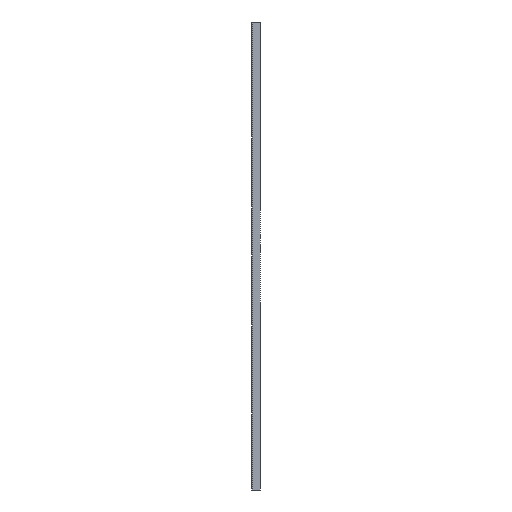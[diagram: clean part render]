
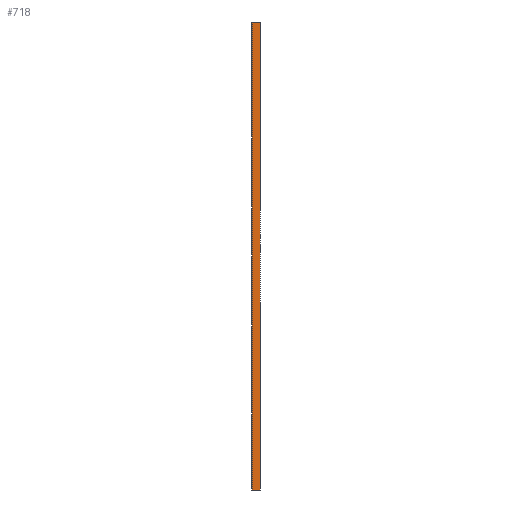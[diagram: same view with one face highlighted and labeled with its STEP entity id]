
A CAD part, left-side view. The second image highlights one B-rep face of the part: STEP entity #718.
In plain terms, the highlighted planar face has unit normal (-1, 0, 0).
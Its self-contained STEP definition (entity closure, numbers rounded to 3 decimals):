
#9 = CARTESIAN_POINT ( 'NONE',  ( -511.5, 0., 150. ) ) ;
#11 = CARTESIAN_POINT ( 'NONE',  ( -511.5, -20., -950. ) ) ;
#28 = CARTESIAN_POINT ( 'NONE',  ( -511.5, -20., -950. ) ) ;
#103 = CARTESIAN_POINT ( 'NONE',  ( -511.5, 0., -950. ) ) ;
#131 = AXIS2_PLACEMENT_3D ( 'NONE', #11, #263, #614 ) ;
#183 = LINE ( 'NONE', #262, #822 ) ;
#188 = CARTESIAN_POINT ( 'NONE',  ( -511.5, -20., 150. ) ) ;
#210 = LINE ( 'NONE', #290, #328 ) ;
#238 = VERTEX_POINT ( 'NONE', #648 ) ;
#262 = CARTESIAN_POINT ( 'NONE',  ( -511.5, -20., 150. ) ) ;
#263 = DIRECTION ( 'NONE',  ( -1., 0., 0. ) ) ;
#290 = CARTESIAN_POINT ( 'NONE',  ( -511.5, 0., -950. ) ) ;
#328 = VECTOR ( 'NONE', #820, 1000. ) ;
#357 = VERTEX_POINT ( 'NONE', #9 ) ;
#375 = EDGE_CURVE ( 'NONE', #863, #357, #183, .T. ) ;
#376 = DIRECTION ( 'NONE',  ( 0., 1., 0. ) ) ;
#393 = EDGE_CURVE ( 'NONE', #238, #777, #948, .T. ) ;
#414 = ORIENTED_EDGE ( 'NONE', *, *, #616, .T. ) ;
#511 = EDGE_LOOP ( 'NONE', ( #699, #793, #414, #593 ) ) ;
#536 = PLANE ( 'NONE',  #131 ) ;
#539 = LINE ( 'NONE', #701, #750 ) ;
#593 = ORIENTED_EDGE ( 'NONE', *, *, #375, .T. ) ;
#613 = DIRECTION ( 'NONE',  ( 0., 1., 0. ) ) ;
#614 = DIRECTION ( 'NONE',  ( 0., 0., 1. ) ) ;
#616 = EDGE_CURVE ( 'NONE', #238, #863, #539, .T. ) ;
#648 = CARTESIAN_POINT ( 'NONE',  ( -511.5, -20., -950. ) ) ;
#655 = VECTOR ( 'NONE', #376, 1000. ) ;
#690 = EDGE_CURVE ( 'NONE', #777, #357, #210, .T. ) ;
#699 = ORIENTED_EDGE ( 'NONE', *, *, #690, .F. ) ;
#701 = CARTESIAN_POINT ( 'NONE',  ( -511.5, -20., -950. ) ) ;
#718 = ADVANCED_FACE ( 'NONE', ( #781 ), #536, .T. ) ;
#750 = VECTOR ( 'NONE', #1131, 1000. ) ;
#777 = VERTEX_POINT ( 'NONE', #103 ) ;
#781 = FACE_OUTER_BOUND ( 'NONE', #511, .T. ) ;
#793 = ORIENTED_EDGE ( 'NONE', *, *, #393, .F. ) ;
#820 = DIRECTION ( 'NONE',  ( 0., 0., 1. ) ) ;
#822 = VECTOR ( 'NONE', #613, 1000. ) ;
#863 = VERTEX_POINT ( 'NONE', #188 ) ;
#948 = LINE ( 'NONE', #28, #655 ) ;
#1131 = DIRECTION ( 'NONE',  ( 0., 0., 1. ) ) ;
